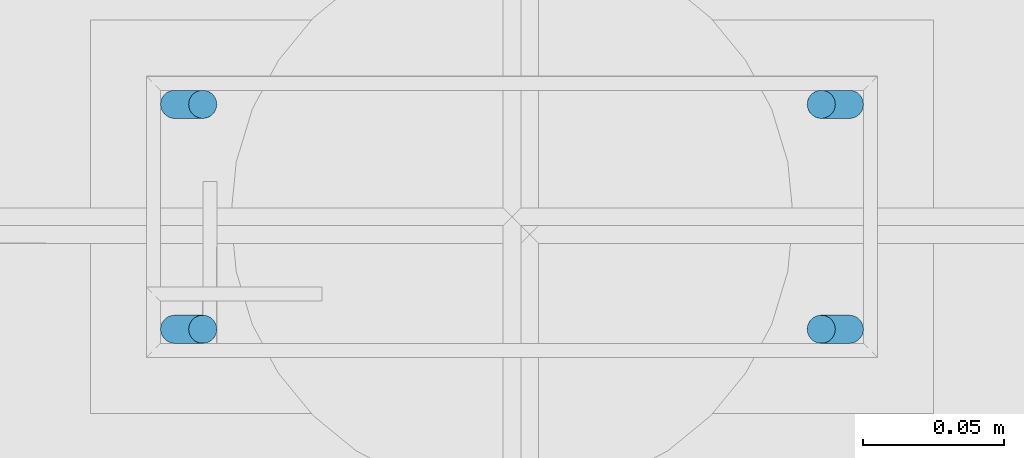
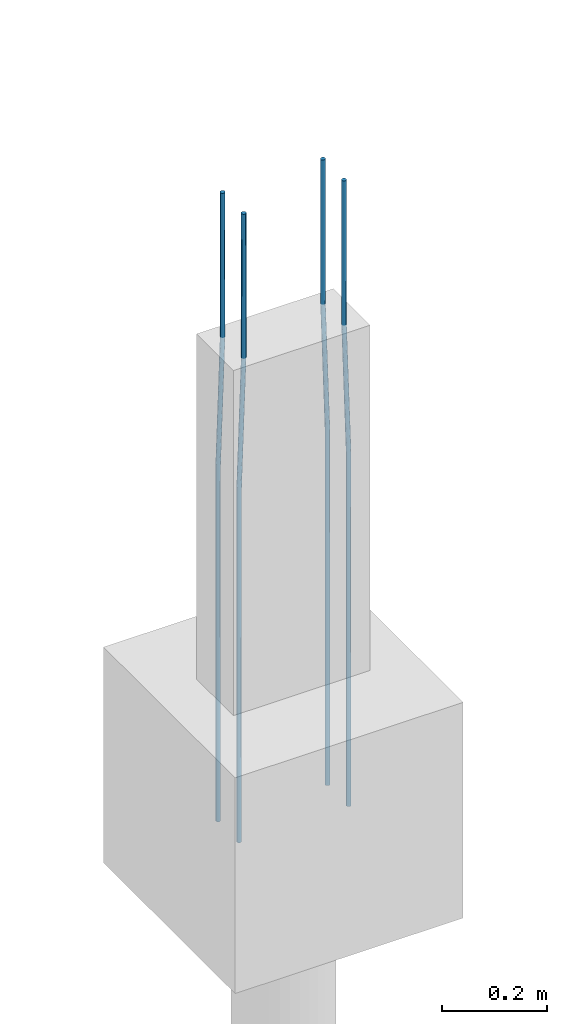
# One storey, part 26 of 119: 4 reinforcing bars.
"""IFC4 building model written with IfcOpenShell, lengths in centimetres."""

from ifc_helpers import new_model, entity, si_unit, derived_unit, frame, origin_with_axes, place, context, project, spatial, element, save


model = new_model("IFC4")

# Units and contexts
model_context = context("Model", 3, precision=1e-05, world=origin_with_axes(), identifier="Body")
ifc_project = project(units=[si_unit("LENGTHUNIT", "METRE", prefix="CENTI"), si_unit("VOLUMEUNIT", "CUBIC_METRE"), si_unit("AREAUNIT", "SQUARE_METRE"), si_unit("POWERUNIT", "WATT"), si_unit("LUMINOUSFLUXUNIT", "LUMEN"), si_unit("ELECTRICCURRENTUNIT", "AMPERE"), si_unit("PRESSUREUNIT", "PASCAL", prefix="KILO"), si_unit("MASSUNIT", "GRAM", prefix="KILO"), si_unit("PLANEANGLEUNIT", "RADIAN"), derived_unit("VOLUMETRICFLOWRATEUNIT", [(si_unit("LENGTHUNIT", "METRE"), 3), (si_unit("TIMEUNIT", "SECOND"), -1)])], contexts=[model_context])

# Site, building, storey
site_placement = place(None, frame((-4000.0, 0.0, 0.0), z_axis=(0.0, 0.0, 1.0), x_axis=(1.0, 0.0, 0.0)))
site = spatial("IfcSite", under=ifc_project, at=site_placement, Name="PADRÃO")
building_placement = place(site_placement, frame((0.0, 0.0, -14.0)))
building = spatial("IfcBuilding", under=site, at=building_placement, Name="CRECHE PRÉ-ESCOLA TIPO 2")
storey_placement = place(building_placement, origin_with_axes())
storey = spatial("IfcBuildingStorey", under=building, at=storey_placement, Name="FUNDAÇÃO", CompositionType="ELEMENT", Elevation=-14.0)

# Reinforcing bars
for number, where, z_axis, x_axis, name in (
    (1, (1098.22, 2581.5, 33.3573001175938), (0.0, 0.0, 1.0), (1.0, 0.0, 0.0), "P71 - Longitudinal"),
    (2, (1098.22, 2573.5, 33.3573001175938), (0.0, 0.0, 1.0), (1.0, 0.0, 0.0), "P71 - Longitudinal"),
):
    element("IfcReinforcingBar", number, at=place(storey_placement, frame(where, z_axis=z_axis, x_axis=x_axis)), inside=storey, Name=name, BarLength=0.0, CrossSectionArea=7.853981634e-05, NominalDiameter=1.0, PredefinedType="MAIN", context=model_context, shape_type="AdvancedSweptSolid", body=[
        entity("IfcSweptDiskSolid", entity("IfcCompositeCurve", [entity("IfcCompositeCurveSegment", "CONTINUOUS", True, entity("IfcPolyline", [entity("IfcCartesianPoint", [-0.5, 0.0, -145.357300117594]), entity("IfcCartesianPoint", [-0.5, 0.0, -63.3573001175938])])), entity("IfcCompositeCurveSegment", "CONTINUOUS", True, entity("IfcPolyline", [entity("IfcCartesianPoint", [-0.5, 0.0, -63.3573001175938]), entity("IfcCartesianPoint", [0.5, 0.0, -33.3573001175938])])), entity("IfcCompositeCurveSegment", "CONTINUOUS", True, entity("IfcPolyline", [entity("IfcCartesianPoint", [0.5, 0.0, -33.3573001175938]), entity("IfcCartesianPoint", [0.5, 0.0, 0.0])]))], False), 0.5),
    ])
for number, where, z_axis, x_axis, name in (
    (3, (1121.22, 2581.5, 33.3573001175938), (0.0, 0.0, 1.0), (1.0, 0.0, 0.0), "P71 - Longitudinal"),
    (4, (1121.22, 2573.5, 33.3573001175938), (0.0, 0.0, 1.0), (1.0, 0.0, 0.0), "P71 - Longitudinal"),
):
    element("IfcReinforcingBar", number, at=place(storey_placement, frame(where, z_axis=z_axis, x_axis=x_axis)), inside=storey, Name=name, BarLength=0.0, CrossSectionArea=7.853981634e-05, NominalDiameter=1.0, PredefinedType="MAIN", context=model_context, shape_type="AdvancedSweptSolid", body=[
        entity("IfcSweptDiskSolid", entity("IfcCompositeCurve", [entity("IfcCompositeCurveSegment", "CONTINUOUS", True, entity("IfcPolyline", [entity("IfcCartesianPoint", [0.5, 0.0, -145.357300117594]), entity("IfcCartesianPoint", [0.5, 0.0, -63.3573001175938])])), entity("IfcCompositeCurveSegment", "CONTINUOUS", True, entity("IfcPolyline", [entity("IfcCartesianPoint", [0.5, 0.0, -63.3573001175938]), entity("IfcCartesianPoint", [-0.5, 0.0, -33.3573001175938])])), entity("IfcCompositeCurveSegment", "CONTINUOUS", True, entity("IfcPolyline", [entity("IfcCartesianPoint", [-0.5, 0.0, -33.3573001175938]), entity("IfcCartesianPoint", [-0.5, 0.0, 0.0])]))], False), 0.5),
    ])

save(model, "model.ifc")
